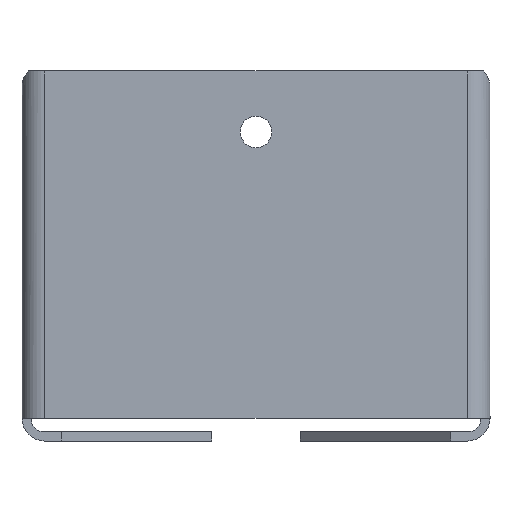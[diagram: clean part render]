
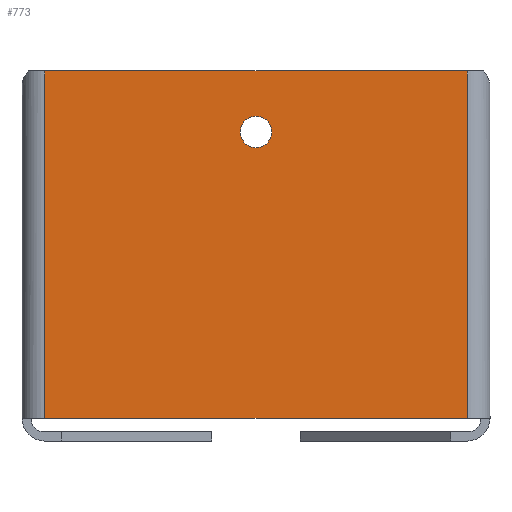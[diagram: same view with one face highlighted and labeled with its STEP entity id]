
A CAD part, front view. The second image highlights one B-rep face of the part: STEP entity #773.
In plain terms, the highlighted planar face has unit normal (0, -1, 0).
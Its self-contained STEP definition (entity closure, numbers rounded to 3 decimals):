
#16 = EDGE_LOOP ( 'NONE', ( #3847, #2165, #417, #1253 ) ) ;
#106 = VECTOR ( 'NONE', #2086, 1000. ) ;
#287 = DIRECTION ( 'NONE',  ( 0., 1., 0. ) ) ;
#310 = LINE ( 'NONE', #2744, #3466 ) ;
#313 = CARTESIAN_POINT ( 'NONE',  ( 0., 0., 0. ) ) ;
#406 = EDGE_CURVE ( 'NONE', #3524, #1715, #310, .T. ) ;
#410 = CIRCLE ( 'NONE', #3652, 3.5 ) ;
#417 = ORIENTED_EDGE ( 'NONE', *, *, #3158, .F. ) ;
#465 = CARTESIAN_POINT ( 'NONE',  ( 143.142, 0., 0. ) ) ;
#628 = DIRECTION ( 'NONE',  ( 0., -1., 0. ) ) ;
#700 = LINE ( 'NONE', #3700, #1629 ) ;
#773 = ADVANCED_FACE ( 'NONE', ( #3715, #2855 ), #2224, .T. ) ;
#905 = CARTESIAN_POINT ( 'NONE',  ( 190., 0., 26.5 ) ) ;
#1047 = LINE ( 'NONE', #2127, #106 ) ;
#1253 = ORIENTED_EDGE ( 'NONE', *, *, #3191, .F. ) ;
#1515 = CARTESIAN_POINT ( 'NONE',  ( 143.142, 0., 40. ) ) ;
#1580 = CIRCLE ( 'NONE', #2487, 3.5 ) ;
#1593 = CARTESIAN_POINT ( 'NONE',  ( 143.142, 0., -37. ) ) ;
#1616 = CARTESIAN_POINT ( 'NONE',  ( 190., 0., 26.5 ) ) ;
#1629 = VECTOR ( 'NONE', #2076, 1000. ) ;
#1715 = VERTEX_POINT ( 'NONE', #2045 ) ;
#1938 = VERTEX_POINT ( 'NONE', #4119 ) ;
#1949 = DIRECTION ( 'NONE',  ( 0., 1., 0. ) ) ;
#2045 = CARTESIAN_POINT ( 'NONE',  ( 236.858, 0., -37. ) ) ;
#2047 = VECTOR ( 'NONE', #2696, 1000. ) ;
#2058 = CARTESIAN_POINT ( 'NONE',  ( 190., 0., 30. ) ) ;
#2076 = DIRECTION ( 'NONE',  ( 1., 0., 0. ) ) ;
#2086 = DIRECTION ( 'NONE',  ( 0., 0., 1. ) ) ;
#2127 = CARTESIAN_POINT ( 'NONE',  ( 236.858, 0., 0. ) ) ;
#2165 = ORIENTED_EDGE ( 'NONE', *, *, #3295, .T. ) ;
#2174 = VERTEX_POINT ( 'NONE', #2058 ) ;
#2224 = PLANE ( 'NONE',  #2428 ) ;
#2373 = VERTEX_POINT ( 'NONE', #1515 ) ;
#2428 = AXIS2_PLACEMENT_3D ( 'NONE', #313, #628, #3523 ) ;
#2487 = AXIS2_PLACEMENT_3D ( 'NONE', #1616, #1949, #3880 ) ;
#2495 = VERTEX_POINT ( 'NONE', #2563 ) ;
#2563 = CARTESIAN_POINT ( 'NONE',  ( 190., 0., 23. ) ) ;
#2595 = ORIENTED_EDGE ( 'NONE', *, *, #3301, .T. ) ;
#2696 = DIRECTION ( 'NONE',  ( 0., 0., 1. ) ) ;
#2744 = CARTESIAN_POINT ( 'NONE',  ( 0., 0., -37. ) ) ;
#2855 = FACE_OUTER_BOUND ( 'NONE', #16, .T. ) ;
#3152 = DIRECTION ( 'NONE',  ( 0., 0., 1. ) ) ;
#3158 = EDGE_CURVE ( 'NONE', #2373, #1938, #700, .T. ) ;
#3191 = EDGE_CURVE ( 'NONE', #3524, #2373, #4012, .T. ) ;
#3295 = EDGE_CURVE ( 'NONE', #1715, #1938, #1047, .T. ) ;
#3301 = EDGE_CURVE ( 'NONE', #2495, #2174, #410, .T. ) ;
#3398 = EDGE_CURVE ( 'NONE', #2174, #2495, #1580, .T. ) ;
#3466 = VECTOR ( 'NONE', #3994, 1000. ) ;
#3509 = EDGE_LOOP ( 'NONE', ( #4002, #2595 ) ) ;
#3523 = DIRECTION ( 'NONE',  ( 0., 0., -1. ) ) ;
#3524 = VERTEX_POINT ( 'NONE', #1593 ) ;
#3652 = AXIS2_PLACEMENT_3D ( 'NONE', #905, #287, #3152 ) ;
#3700 = CARTESIAN_POINT ( 'NONE',  ( 0., 0., 40. ) ) ;
#3715 = FACE_BOUND ( 'NONE', #3509, .T. ) ;
#3847 = ORIENTED_EDGE ( 'NONE', *, *, #406, .T. ) ;
#3880 = DIRECTION ( 'NONE',  ( 0., 0., 1. ) ) ;
#3994 = DIRECTION ( 'NONE',  ( 1., 0., 0. ) ) ;
#4002 = ORIENTED_EDGE ( 'NONE', *, *, #3398, .T. ) ;
#4012 = LINE ( 'NONE', #465, #2047 ) ;
#4119 = CARTESIAN_POINT ( 'NONE',  ( 236.858, 0., 40. ) ) ;
